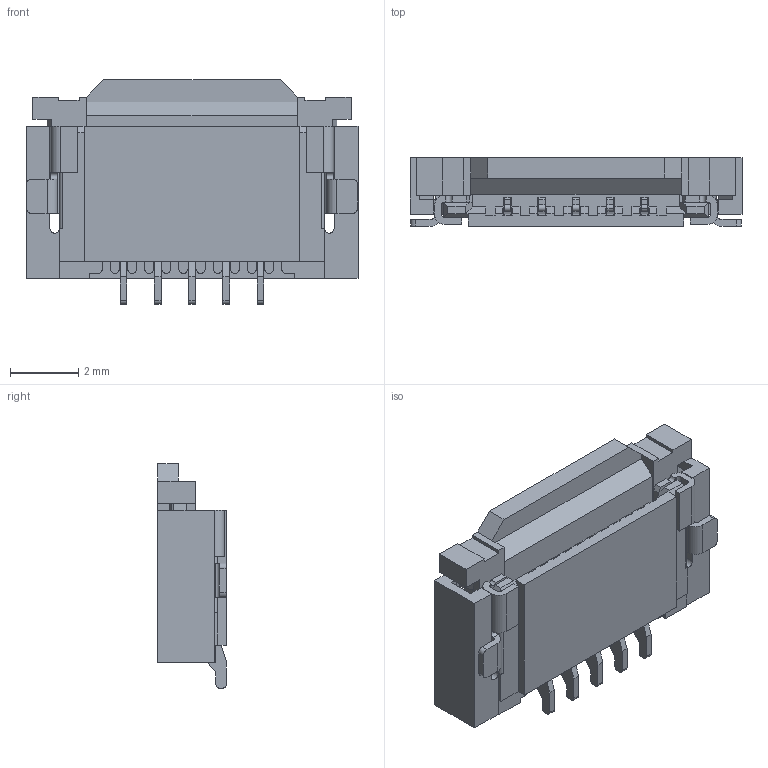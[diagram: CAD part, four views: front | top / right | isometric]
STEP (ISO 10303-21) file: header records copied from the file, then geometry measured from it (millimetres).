
FILE_DESCRIPTION((''),'2;1');
FILE_NAME('S-51504-008XX-XXX','2012-02-24T',('12104020'),(''),'PRO/ENGINEER BY PARAMETRIC TECHNOLOGY CORPORATION, 2009360','PRO/ENGINEER BY PARAMETRIC TECHNOLOGY CORPORATION, 2009360','');
FILE_SCHEMA(('CONFIG_CONTROL_DESIGN'));
Length unit declared in the file: millimetre
Products named in the file (1): S-51504-008XX-XXX
Bounding box: 9.7 x 2 x 6.55 mm (x, y, z)
Volume: 61.6 mm3; surface area: 366.8 mm2
Topology: 1 solids, 1 shells, 728 faces, 2368 edges, 1553 vertices
Faces by surface type: plane 532, cylinder 196
Entity records: 26040 total; most frequent: CARTESIAN_POINT 4743, ORIENTED_EDGE 4736, DIRECTION 4218, EDGE_CURVE 2368, VECTOR 1938, LINE 1938, VERTEX_POINT 1553, AXIS2_PLACEMENT_3D 1140
